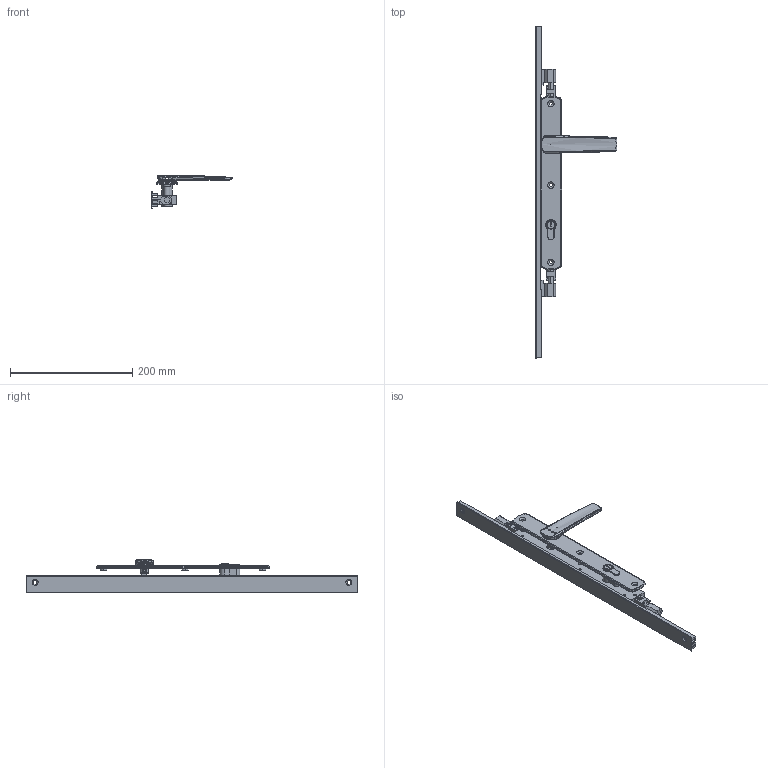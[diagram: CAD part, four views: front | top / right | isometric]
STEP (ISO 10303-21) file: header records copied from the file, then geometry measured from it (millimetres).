
FILE_DESCRIPTION (( 'STEP AP214' ), '1' );
FILE_NAME ('TPL-W-EU-620-U 06Nov2024.STEP', '2024-11-27T04:05:34', ( '' ), ( '' ), 'SwSTEP 2.0', 'SolidWorks 2023', '' );
FILE_SCHEMA (( 'AUTOMOTIVE_DESIGN' ));
Length unit declared in the file: millimetre
Products named in the file (19): Copy of TPLGen2 push rod - simplified^Copy of TPLGen2 lock body keyed assembly_TPL-W-EU-120 04Nov2024_Female thread M10; Copy of Copy of LKC-531 Lock twinpoint transmission rod wood system^TPL-W-EU-120 04Nov2024_Standard Range 2891.7mm; Copy of TPLGen2 lock body keyed^Copy of TPLGen2 lock body keyed assembly_TPL-W-EU-120 04Nov2024; Copy of Adapter DnF - simplfied^TPL-W-EU-120 04Nov2024_26mm backset; Copy of Copy of Copy of LKC-531 Lock twinpoint transmission rod wood system^TPL-W-EU-120 04Nov2024_Standard Range 2891.7mm; Copy of LKC-585 Rotator body zinc^Copy of TPGen2 handle keyed internal zinc - simplified_TPL-W-EU-120 04Nov2024; Copy of LKC-512 Escutcheon plate keyed internal 285mm long zinc - simplified^Copy of TPGen2 handle keyed internal zinc - simplified_TPL-W-EU-120 04Nov2024; Copy of TPGen2 handle keyed internal zinc - simplified^TPL-W-EU-120 04Nov2024_Right; Copy of TPLGen2 lock body keyed assembly^TPL-W-EU-120 04Nov2024_Bolts retracted; Copy of COV-112-A Cover A suit TPLGen2 standard range^TPL-W-EU-120 04Nov2024_2870mm; Bolt.step; Copy of COV-112-C Cover C TPLGen2 Lock body^TPL-W-EU-120 04Nov2024; Copy of LKC-586 Spindle square 8mm with M4 hole^Copy of TPGen2 handle keyed internal zinc - simplified_TPL-W-EU-120 04Nov2024_25mm; Copy of Adapter CnE - simplfied^TPL-W-EU-120 04Nov2024_26mm backset; Copy of TPL-W-EU-130 04Nov2024^TPL-W-EU-120 04Nov2024_TPL-023 Left; Copy of LKC-505 Swing handle zinc - simplified^Copy of TPGen2 handle keyed internal zinc - simplified_TPL-W-EU-120 04Nov2024; Copy of LKC-584 Pivot body zinc - simplified^Copy of TPGen2 handle keyed internal zinc - simplified_TPL-W-EU-120 04Nov2024; TPL-W-EU-620-U 06Nov2024; Copy (2) of COV-112-B Cover B suit TPLGen2 standard range^TPL-W-EU-120 04Nov2024_2870mm
Assembly tree (16 placements, depth 3):
  Copy of COV-112-A Cover A suit TPLGen2 standard range^TPL-W-EU-120 04Nov2024_2870mm
  Bolt.step
  TPL-W-EU-620-U 06Nov2024
    Copy of TPLGen2 lock body keyed assembly^TPL-W-EU-120 04Nov2024_Bolts retracted
      Copy of TPLGen2 lock body keyed^Copy of TPLGen2 lock body keyed assembly_TPL-W-EU-120 04Nov2024
      Copy of TPLGen2 push rod - simplified^Copy of TPLGen2 lock body keyed assembly_TPL-W-EU-120 04Nov2024_Female thread M10  x2
    Copy of TPGen2 handle keyed internal zinc - simplified^TPL-W-EU-120 04Nov2024_Right
      Copy of LKC-512 Escutcheon plate keyed internal 285mm long zinc - simplified^Copy of TPGen2 handle keyed internal zinc - simplified_TPL-W-EU-120 04Nov2024
      Copy of LKC-505 Swing handle zinc - simplified^Copy of TPGen2 handle keyed internal zinc - simplified_TPL-W-EU-120 04Nov2024
      Copy of LKC-585 Rotator body zinc^Copy of TPGen2 handle keyed internal zinc - simplified_TPL-W-EU-120 04Nov2024
      Copy of LKC-586 Spindle square 8mm with M4 hole^Copy of TPGen2 handle keyed internal zinc - simplified_TPL-W-EU-120 04Nov2024_25mm
      Copy of LKC-584 Pivot body zinc - simplified^Copy of TPGen2 handle keyed internal zinc - simplified_TPL-W-EU-120 04Nov2024
    Copy of TPL-W-EU-130 04Nov2024^TPL-W-EU-120 04Nov2024_TPL-023 Left
    Copy of COV-112-C Cover C TPLGen2 Lock body^TPL-W-EU-120 04Nov2024
    Copy of Copy of LKC-531 Lock twinpoint transmission rod wood system^TPL-W-EU-120 04Nov2024_Standard Range 2891.7mm
    Copy of Copy of Copy of LKC-531 Lock twinpoint transmission rod wood system^TPL-W-EU-120 04Nov2024_Standard Range 2891.7mm
    Copy of Adapter CnE - simplfied^TPL-W-EU-120 04Nov2024_26mm backset
    Copy of Adapter DnF - simplfied^TPL-W-EU-120 04Nov2024_26mm backset
  Copy (2) of COV-112-B Cover B suit TPLGen2 standard range^TPL-W-EU-120 04Nov2024_2870mm
Bounding box: 134.12 x 544 x 53.86 mm (x, y, z)
Volume: 286353.2 mm3; surface area: 140669.3 mm2
Topology: 14 solids, 14 shells, 919 faces, 2287 edges, 1426 vertices
Faces by surface type: plane 325, bspline 241, cylinder 228, cone 71, torus 46, sphere 8
Entity records: 33040 total; most frequent: CARTESIAN_POINT 13040, ORIENTED_EDGE 4382, DIRECTION 3618, EDGE_CURVE 2191, VERTEX_POINT 1366, AXIS2_PLACEMENT_3D 1330, EDGE_LOOP 983, LINE 958
